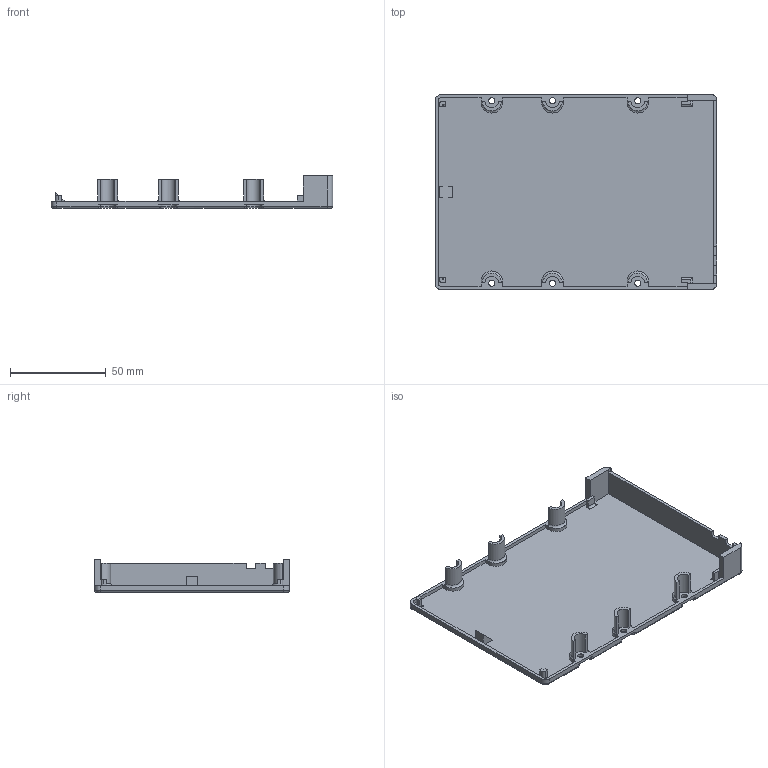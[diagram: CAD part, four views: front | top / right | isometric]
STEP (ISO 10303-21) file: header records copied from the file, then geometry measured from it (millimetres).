
FILE_DESCRIPTION(/* description */ (''),/* implementation_level */ '2;1');
FILE_NAME(/* name */ 'E:/OneDrive/projects/3.5 Hard Drive 50-pin SCSI PCB/123d design/New folder/3.5 Hard Drive Case 50-pin SCSI TH top cover.stp',/* time_stamp */ '2022-01-04T23:53:37-05:00',/* author */ (''),/* organization */ (''),/* preprocessor_version */ 'ST-DEVELOPER v15.2',/* originating_system */ 'Autodesk Translator Framework v2.0.0.5431',/* authorisation */ '');
FILE_SCHEMA (('AUTOMOTIVE_DESIGN { 1 0 10303 214 3 1 1 }'));
Length unit declared in the file: centimetre
Products named in the file (1): 3.5 Hard Drive Case 50-pin SCSI TH top cover
Bounding box: 147 x 101.6 x 17.05 mm (x, y, z)
Volume: 30329 mm3; surface area: 38045.7 mm2
Topology: 1 solids, 1 shells, 224 faces, 608 edges, 377 vertices
Faces by surface type: plane 116, cylinder 80, torus 16, bspline 12
Full cylindrical faces by diameter (mm): 3.2 x6
Entity records: 7385 total; most frequent: CARTESIAN_POINT 1768, ORIENTED_EDGE 1180, DIRECTION 1152, EDGE_CURVE 590, AXIS2_PLACEMENT_3D 385, LINE 382, VECTOR 382, VERTEX_POINT 377
